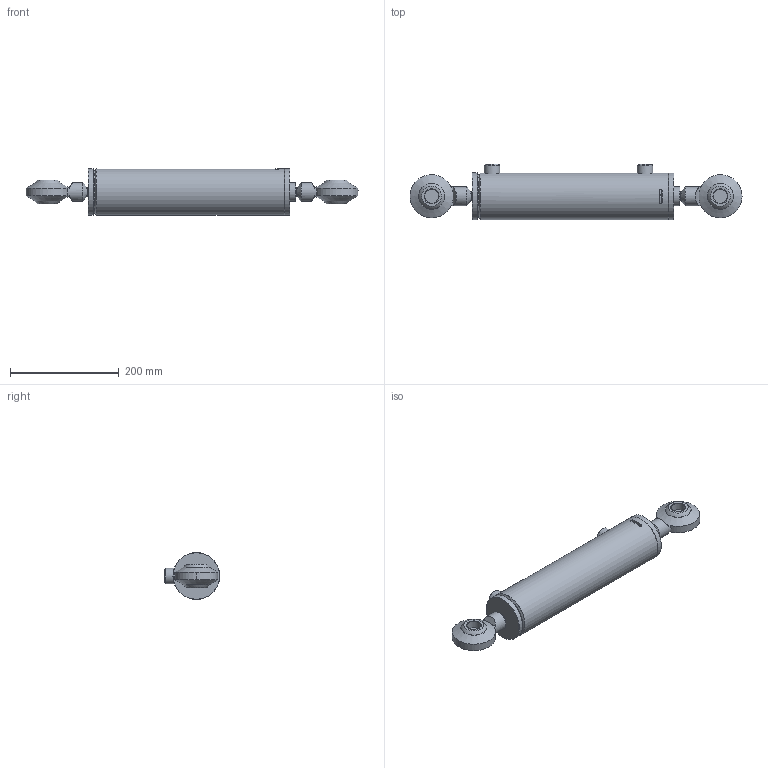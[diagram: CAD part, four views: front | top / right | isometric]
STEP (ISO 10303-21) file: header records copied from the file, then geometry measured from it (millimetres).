
FILE_DESCRIPTION((''),'2;1');
FILE_NAME('C:\Vault\Workspace\RefDataCylinders\BD-XXXX\BD-0228\BD-0228.stp','2013-04-16T08:41:38',('NewtonB'),(''),'Autodesk Inventor 2012','Autodesk Inventor 2012','');
FILE_SCHEMA(('AUTOMOTIVE_DESIGN { 1 0 10303 214 1 1 1 1 }'));
Length unit declared in the file: inch
Products named in the file (13): BD-0228; 020700221; 010700776; 210500127; 061500814; 161500110; 051500824; 200014403; 071500373; 081500267; 220000210; 200018003; 230007300V
Assembly tree (15 placements, depth 3):
  BD-0228
    020700221
      010700776
      210500127
    061500814
      161500110
      051500824
      200014403  x2
      210500127
    071500373
    081500267
    220000210
    200018003  x2
    230007300V
Bounding box: 609.78 x 101.79 x 85.85 mm (x, y, z)
Volume: 1443400.8 mm3; surface area: 344157 mm2
Topology: 13 solids, 13 shells, 285 faces, 606 edges, 364 vertices
Faces by surface type: plane 94, torus 63, cylinder 60, cone 43, bspline 21, sphere 4
Full cylindrical faces by diameter (mm): 4.775 x1, 9.576 x2, 9.652 x2, 15.875 x2, 17.475 x2, 23.444 x1, 25.349 x1, 25.476 x1, 25.806 x4, 27.94 x1, 28.575 x2, 34.925 x3, 35.001 x2, 38.71 x1, 41.275 x1, 42.85 x1, 66.65 x1, 66.675 x1, 67.564 x1, 75.946 x5, 76.022 x1, 76.2 x2, 77.978 x1, 85.725 x2, 85.852 x1
Entity records: 6935 total; most frequent: CARTESIAN_POINT 2228, DIRECTION 946, ORIENTED_EDGE 706, AXIS2_PLACEMENT_3D 442, EDGE_LOOP 375, EDGE_CURVE 353, VERTEX_POINT 272, FACE_OUTER_BOUND 230
